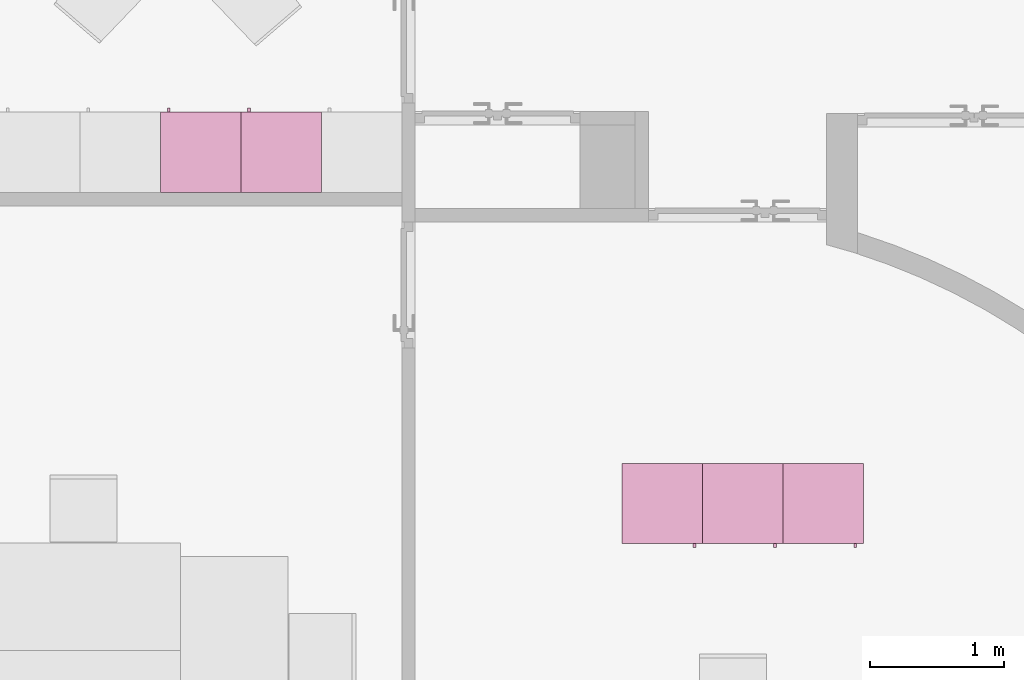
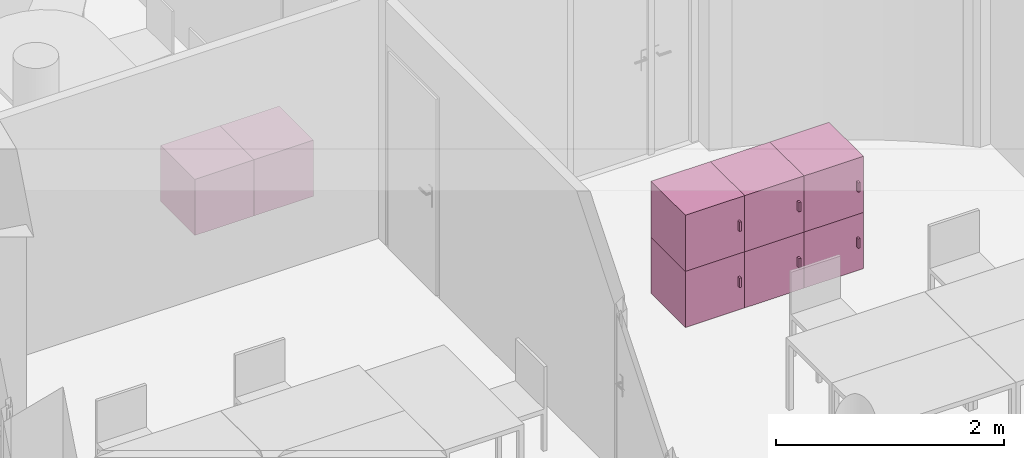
"""IFC4 building model written with IfcOpenShell, lengths in metres."""

from ifc_helpers import new_model, entity, si_unit, converted_unit, derived_unit, frame, origin, place, context, subcontext, project, spatial, faceted_brep, element, save


model = new_model("IFC4")

# Units and contexts
model_context = context("Model", 3, precision=1e-05, world=origin())
body_context = subcontext(model_context, "Body", "Model", "MODEL_VIEW")
ifc_project = project(units=[si_unit("LENGTHUNIT", "METRE"), si_unit("AREAUNIT", "SQUARE_METRE"), si_unit("VOLUMEUNIT", "CUBIC_METRE"), si_unit("MASSUNIT", "GRAM", prefix="KILO"), converted_unit("PLANEANGLEUNIT", "DEGREE", entity("IfcPlaneAngleMeasure", 0.0174532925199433), si_unit("PLANEANGLEUNIT", "RADIAN"), dimensions=[0, 0, 0, 0, 0, 0, 0]), derived_unit("THERMALTRANSMITTANCEUNIT", [(si_unit("POWERUNIT", "WATT"), 1), (si_unit("THERMODYNAMICTEMPERATUREUNIT", "KELVIN"), -1), (si_unit("LENGTHUNIT", "METRE"), -2)]), derived_unit("VOLUMETRICFLOWRATEUNIT", [(si_unit("LENGTHUNIT", "METRE"), 3), (converted_unit("TIMEUNIT", "hour", entity("IfcTimeMeasure", 3600.0), si_unit("TIMEUNIT", "SECOND"), dimensions=[0, 0, 1, 0, 0, 0, 0]), -1), (si_unit("LENGTHUNIT", "METRE"), -1)])], contexts=[model_context])

# Building, storeys
building_placement = place(None, origin())
building = spatial("IfcBuilding", under=ifc_project, at=building_placement, Name="HABITATGE PLURIFAMILIAR", CompositionType="ELEMENT")
storey_1_placement = place(building_placement, frame((0.0, 0.0, 18.29)))
storey_1 = spatial("IfcBuildingStorey", under=building, at=storey_1_placement, Name="PLANTA CINQUENA", CompositionType="ELEMENT", Elevation=18.29)
storey_2_placement = place(storey_1_placement, frame((0.0, 0.0, 15.28)))
storey_2 = spatial("IfcBuildingStorey", under=storey_1, at=storey_2_placement, Name="NOU", CompositionType="PARTIAL")

# Furniture
furniture_1_placement = place(storey_2_placement, frame((407.181391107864, 20.9895257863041, -15.2800000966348)))
element("IfcFurniture", 1, at=furniture_1_placement, inside=storey_2, Name="Armai 60x60x60_P5", context=body_context, shape_type="Brep", body=[
    faceted_brep([(0.600000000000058, 0.0300000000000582, 0.02), (0.600000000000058, 0.0300000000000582, 0.0), (0.0, 0.0300000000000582, 0.0), (0.0, 0.0300000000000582, 0.02), (0.0, 0.630000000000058, 0.0), (0.0, 0.630000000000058, 0.02), (0.600000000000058, 0.630000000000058, 0.0), (0.600000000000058, 0.630000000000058, 0.02)], [[[0, 1, 2, 3]], [[3, 2, 4, 5]], [[5, 4, 6, 7]], [[7, 6, 1, 0]], [[0, 3, 5, 7]], [[1, 6, 4, 2]]], orient=[[False], [False], [False], [False], [False], [False]]),
    faceted_brep([(0.02, 0.63, 0.58), (0.02, 0.61, 0.58), (0.02, 0.61, 0.02), (0.02, 0.63, 0.02), (0.58, 0.61, 0.02), (0.58, 0.63, 0.02), (0.58, 0.61, 0.58), (0.58, 0.63, 0.58)], [[[0, 1, 2, 3]], [[3, 2, 4, 5]], [[5, 4, 6, 7]], [[7, 6, 1, 0]], [[0, 3, 5, 7]], [[1, 6, 4, 2]]], orient=[[False], [False], [False], [False], [False], [False]]),
    faceted_brep([(0.58, 0.0300000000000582, 0.58), (0.6, 0.0300000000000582, 0.58), (0.6, 0.0300000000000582, 0.02), (0.58, 0.0300000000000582, 0.02), (0.6, 0.630000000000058, 0.02), (0.58, 0.630000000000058, 0.02), (0.6, 0.630000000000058, 0.58), (0.58, 0.630000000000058, 0.58)], [[[0, 1, 2, 3]], [[3, 2, 4, 5]], [[5, 4, 6, 7]], [[7, 6, 1, 0]], [[0, 3, 5, 7]], [[1, 6, 4, 2]]], orient=[[False], [False], [False], [False], [False], [False]]),
    faceted_brep([(0.600000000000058, 0.0500000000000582, 0.58), (0.600000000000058, 0.0300000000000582, 0.58), (0.600000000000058, 0.0300000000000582, 0.02), (0.600000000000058, 0.0500000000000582, 0.02), (0.580000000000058, 0.0300000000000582, 0.02), (0.580000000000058, 0.0500000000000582, 0.02), (0.580000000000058, 0.0300000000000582, 0.58), (0.580000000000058, 0.0500000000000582, 0.58)], [[[0, 1, 2, 3]], [[3, 2, 4, 5]], [[5, 4, 6, 7]], [[7, 6, 1, 0]], [[0, 3, 5, 7]], [[1, 6, 4, 2]]], orient=[[False], [False], [False], [False], [False], [False]]),
    faceted_brep([(0.0, 0.0300000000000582, 0.58), (0.0200000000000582, 0.0300000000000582, 0.58), (0.0200000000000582, 0.0300000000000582, 0.02), (0.0, 0.0300000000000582, 0.02), (0.0200000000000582, 0.630000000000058, 0.02), (0.0, 0.630000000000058, 0.02), (0.0200000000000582, 0.630000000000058, 0.58), (0.0, 0.630000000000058, 0.58)], [[[0, 1, 2, 3]], [[3, 2, 4, 5]], [[5, 4, 6, 7]], [[7, 6, 1, 0]], [[0, 3, 5, 7]], [[1, 6, 4, 2]]], orient=[[False], [False], [False], [False], [False], [False]]),
    faceted_brep([(0.6, 0.03, 0.6), (0.6, 0.03, 0.58), (0.0, 0.03, 0.58), (0.0, 0.03, 0.6), (0.0, 0.63, 0.58), (0.0, 0.63, 0.6), (0.6, 0.63, 0.58), (0.6, 0.63, 0.6)], [[[0, 1, 2, 3]], [[3, 2, 4, 5]], [[5, 4, 6, 7]], [[7, 6, 1, 0]], [[0, 3, 5, 7]], [[1, 6, 4, 2]]], orient=[[False], [False], [False], [False], [False], [False]]),
    faceted_brep([(0.02, 0.05, 0.58), (0.02, 0.03, 0.58), (0.02, 0.03, 0.02), (0.02, 0.05, 0.02), (0.580000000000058, 0.03, 0.02), (0.580000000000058, 0.05, 0.02), (0.580000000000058, 0.03, 0.58), (0.580000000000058, 0.05, 0.58)], [[[0, 1, 2, 3]], [[3, 2, 4, 5]], [[5, 4, 6, 7]], [[7, 6, 1, 0]], [[0, 3, 5, 7]], [[1, 6, 4, 2]]], orient=[[False], [False], [False], [False], [False], [False]]),
    faceted_brep([(0.53, 0.03, 0.358064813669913), (0.53, 0.0, 0.358064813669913), (0.53, 0.0, 0.258064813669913), (0.53, 0.03, 0.258064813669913), (0.55, 0.0, 0.258064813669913), (0.55, 0.03, 0.258064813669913), (0.55, 0.0, 0.358064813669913), (0.55, 0.03, 0.358064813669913)], [[[0, 1, 2, 3]], [[3, 2, 4, 5]], [[5, 4, 6, 7]], [[7, 6, 1, 0]], [[0, 3, 5, 7]], [[1, 6, 4, 2]]], orient=[[False], [False], [False], [False], [False], [False]]),
])
furniture_2_placement = place(storey_2_placement, frame((406.581391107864, 20.9895257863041, -15.2800000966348)))
element("IfcFurniture", 2, at=furniture_2_placement, inside=storey_2, Name="Armai 60x60x60_P5", context=body_context, shape_type="Brep", body=[
    faceted_brep([(0.600000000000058, 0.0300000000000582, 0.02), (0.600000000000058, 0.0300000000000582, 0.0), (0.0, 0.0300000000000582, 0.0), (0.0, 0.0300000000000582, 0.02), (0.0, 0.630000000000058, 0.0), (0.0, 0.630000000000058, 0.02), (0.600000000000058, 0.630000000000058, 0.0), (0.600000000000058, 0.630000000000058, 0.02)], [[[0, 1, 2, 3]], [[3, 2, 4, 5]], [[5, 4, 6, 7]], [[7, 6, 1, 0]], [[0, 3, 5, 7]], [[1, 6, 4, 2]]], orient=[[False], [False], [False], [False], [False], [False]]),
    faceted_brep([(0.02, 0.63, 0.58), (0.02, 0.61, 0.58), (0.02, 0.61, 0.02), (0.02, 0.63, 0.02), (0.58, 0.61, 0.02), (0.58, 0.63, 0.02), (0.58, 0.61, 0.58), (0.58, 0.63, 0.58)], [[[0, 1, 2, 3]], [[3, 2, 4, 5]], [[5, 4, 6, 7]], [[7, 6, 1, 0]], [[0, 3, 5, 7]], [[1, 6, 4, 2]]], orient=[[False], [False], [False], [False], [False], [False]]),
    faceted_brep([(0.58, 0.0300000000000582, 0.58), (0.6, 0.0300000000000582, 0.58), (0.6, 0.0300000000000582, 0.02), (0.58, 0.0300000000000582, 0.02), (0.6, 0.630000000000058, 0.02), (0.58, 0.630000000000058, 0.02), (0.6, 0.630000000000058, 0.58), (0.58, 0.630000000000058, 0.58)], [[[0, 1, 2, 3]], [[3, 2, 4, 5]], [[5, 4, 6, 7]], [[7, 6, 1, 0]], [[0, 3, 5, 7]], [[1, 6, 4, 2]]], orient=[[False], [False], [False], [False], [False], [False]]),
    faceted_brep([(0.600000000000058, 0.0500000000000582, 0.58), (0.600000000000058, 0.0300000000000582, 0.58), (0.600000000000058, 0.0300000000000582, 0.02), (0.600000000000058, 0.0500000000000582, 0.02), (0.580000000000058, 0.0300000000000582, 0.02), (0.580000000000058, 0.0500000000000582, 0.02), (0.580000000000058, 0.0300000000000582, 0.58), (0.580000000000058, 0.0500000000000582, 0.58)], [[[0, 1, 2, 3]], [[3, 2, 4, 5]], [[5, 4, 6, 7]], [[7, 6, 1, 0]], [[0, 3, 5, 7]], [[1, 6, 4, 2]]], orient=[[False], [False], [False], [False], [False], [False]]),
    faceted_brep([(0.0, 0.0300000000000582, 0.58), (0.0200000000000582, 0.0300000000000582, 0.58), (0.0200000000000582, 0.0300000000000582, 0.02), (0.0, 0.0300000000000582, 0.02), (0.0200000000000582, 0.630000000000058, 0.02), (0.0, 0.630000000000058, 0.02), (0.0200000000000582, 0.630000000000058, 0.58), (0.0, 0.630000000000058, 0.58)], [[[0, 1, 2, 3]], [[3, 2, 4, 5]], [[5, 4, 6, 7]], [[7, 6, 1, 0]], [[0, 3, 5, 7]], [[1, 6, 4, 2]]], orient=[[False], [False], [False], [False], [False], [False]]),
    faceted_brep([(0.6, 0.03, 0.6), (0.6, 0.03, 0.58), (0.0, 0.03, 0.58), (0.0, 0.03, 0.6), (0.0, 0.63, 0.58), (0.0, 0.63, 0.6), (0.6, 0.63, 0.58), (0.6, 0.63, 0.6)], [[[0, 1, 2, 3]], [[3, 2, 4, 5]], [[5, 4, 6, 7]], [[7, 6, 1, 0]], [[0, 3, 5, 7]], [[1, 6, 4, 2]]], orient=[[False], [False], [False], [False], [False], [False]]),
    faceted_brep([(0.02, 0.05, 0.58), (0.02, 0.03, 0.58), (0.02, 0.03, 0.02), (0.02, 0.05, 0.02), (0.580000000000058, 0.03, 0.02), (0.580000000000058, 0.05, 0.02), (0.580000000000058, 0.03, 0.58), (0.580000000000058, 0.05, 0.58)], [[[0, 1, 2, 3]], [[3, 2, 4, 5]], [[5, 4, 6, 7]], [[7, 6, 1, 0]], [[0, 3, 5, 7]], [[1, 6, 4, 2]]], orient=[[False], [False], [False], [False], [False], [False]]),
    faceted_brep([(0.53, 0.03, 0.358064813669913), (0.53, 0.0, 0.358064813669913), (0.53, 0.0, 0.258064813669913), (0.53, 0.03, 0.258064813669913), (0.55, 0.0, 0.258064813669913), (0.55, 0.03, 0.258064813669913), (0.55, 0.0, 0.358064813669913), (0.55, 0.03, 0.358064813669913)], [[[0, 1, 2, 3]], [[3, 2, 4, 5]], [[5, 4, 6, 7]], [[7, 6, 1, 0]], [[0, 3, 5, 7]], [[1, 6, 4, 2]]], orient=[[False], [False], [False], [False], [False], [False]]),
])
furniture_3_placement = place(storey_2_placement, frame((405.981391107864, 20.9895257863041, -15.2800000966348)))
element("IfcFurniture", 3, at=furniture_3_placement, inside=storey_2, Name="Armai 60x60x60_P5", context=body_context, shape_type="Brep", body=[
    faceted_brep([(0.600000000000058, 0.0300000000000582, 0.02), (0.600000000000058, 0.0300000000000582, 0.0), (0.0, 0.0300000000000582, 0.0), (0.0, 0.0300000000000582, 0.02), (0.0, 0.630000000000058, 0.0), (0.0, 0.630000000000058, 0.02), (0.600000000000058, 0.630000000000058, 0.0), (0.600000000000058, 0.630000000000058, 0.02)], [[[0, 1, 2, 3]], [[3, 2, 4, 5]], [[5, 4, 6, 7]], [[7, 6, 1, 0]], [[0, 3, 5, 7]], [[1, 6, 4, 2]]], orient=[[False], [False], [False], [False], [False], [False]]),
    faceted_brep([(0.02, 0.63, 0.58), (0.02, 0.61, 0.58), (0.02, 0.61, 0.02), (0.02, 0.63, 0.02), (0.58, 0.61, 0.02), (0.58, 0.63, 0.02), (0.58, 0.61, 0.58), (0.58, 0.63, 0.58)], [[[0, 1, 2, 3]], [[3, 2, 4, 5]], [[5, 4, 6, 7]], [[7, 6, 1, 0]], [[0, 3, 5, 7]], [[1, 6, 4, 2]]], orient=[[False], [False], [False], [False], [False], [False]]),
    faceted_brep([(0.58, 0.0300000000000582, 0.58), (0.6, 0.0300000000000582, 0.58), (0.6, 0.0300000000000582, 0.02), (0.58, 0.0300000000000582, 0.02), (0.6, 0.630000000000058, 0.02), (0.58, 0.630000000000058, 0.02), (0.6, 0.630000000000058, 0.58), (0.58, 0.630000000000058, 0.58)], [[[0, 1, 2, 3]], [[3, 2, 4, 5]], [[5, 4, 6, 7]], [[7, 6, 1, 0]], [[0, 3, 5, 7]], [[1, 6, 4, 2]]], orient=[[False], [False], [False], [False], [False], [False]]),
    faceted_brep([(0.600000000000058, 0.0500000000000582, 0.58), (0.600000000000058, 0.0300000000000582, 0.58), (0.600000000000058, 0.0300000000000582, 0.02), (0.600000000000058, 0.0500000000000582, 0.02), (0.580000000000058, 0.0300000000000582, 0.02), (0.580000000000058, 0.0500000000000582, 0.02), (0.580000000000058, 0.0300000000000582, 0.58), (0.580000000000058, 0.0500000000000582, 0.58)], [[[0, 1, 2, 3]], [[3, 2, 4, 5]], [[5, 4, 6, 7]], [[7, 6, 1, 0]], [[0, 3, 5, 7]], [[1, 6, 4, 2]]], orient=[[False], [False], [False], [False], [False], [False]]),
    faceted_brep([(0.0, 0.0300000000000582, 0.58), (0.0200000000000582, 0.0300000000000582, 0.58), (0.0200000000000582, 0.0300000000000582, 0.02), (0.0, 0.0300000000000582, 0.02), (0.0200000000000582, 0.630000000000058, 0.02), (0.0, 0.630000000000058, 0.02), (0.0200000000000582, 0.630000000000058, 0.58), (0.0, 0.630000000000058, 0.58)], [[[0, 1, 2, 3]], [[3, 2, 4, 5]], [[5, 4, 6, 7]], [[7, 6, 1, 0]], [[0, 3, 5, 7]], [[1, 6, 4, 2]]], orient=[[False], [False], [False], [False], [False], [False]]),
    faceted_brep([(0.6, 0.03, 0.6), (0.6, 0.03, 0.58), (0.0, 0.03, 0.58), (0.0, 0.03, 0.6), (0.0, 0.63, 0.58), (0.0, 0.63, 0.6), (0.6, 0.63, 0.58), (0.6, 0.63, 0.6)], [[[0, 1, 2, 3]], [[3, 2, 4, 5]], [[5, 4, 6, 7]], [[7, 6, 1, 0]], [[0, 3, 5, 7]], [[1, 6, 4, 2]]], orient=[[False], [False], [False], [False], [False], [False]]),
    faceted_brep([(0.02, 0.05, 0.58), (0.02, 0.03, 0.58), (0.02, 0.03, 0.02), (0.02, 0.05, 0.02), (0.580000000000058, 0.03, 0.02), (0.580000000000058, 0.05, 0.02), (0.580000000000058, 0.03, 0.58), (0.580000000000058, 0.05, 0.58)], [[[0, 1, 2, 3]], [[3, 2, 4, 5]], [[5, 4, 6, 7]], [[7, 6, 1, 0]], [[0, 3, 5, 7]], [[1, 6, 4, 2]]], orient=[[False], [False], [False], [False], [False], [False]]),
    faceted_brep([(0.53, 0.03, 0.358064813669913), (0.53, 0.0, 0.358064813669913), (0.53, 0.0, 0.258064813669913), (0.53, 0.03, 0.258064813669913), (0.55, 0.0, 0.258064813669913), (0.55, 0.03, 0.258064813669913), (0.55, 0.0, 0.358064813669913), (0.55, 0.03, 0.358064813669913)], [[[0, 1, 2, 3]], [[3, 2, 4, 5]], [[5, 4, 6, 7]], [[7, 6, 1, 0]], [[0, 3, 5, 7]], [[1, 6, 4, 2]]], orient=[[False], [False], [False], [False], [False], [False]]),
])
furniture_4_placement = place(storey_2_placement, frame((407.181391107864, 20.9895257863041, -14.6800000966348)))
element("IfcFurniture", 4, at=furniture_4_placement, inside=storey_2, Name="Armai 60x60x60_P5", context=body_context, shape_type="Brep", body=[
    faceted_brep([(0.600000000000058, 0.0300000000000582, 0.02), (0.600000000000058, 0.0300000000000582, 0.0), (0.0, 0.0300000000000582, 0.0), (0.0, 0.0300000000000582, 0.02), (0.0, 0.630000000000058, 0.0), (0.0, 0.630000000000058, 0.02), (0.600000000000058, 0.630000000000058, 0.0), (0.600000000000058, 0.630000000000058, 0.02)], [[[0, 1, 2, 3]], [[3, 2, 4, 5]], [[5, 4, 6, 7]], [[7, 6, 1, 0]], [[0, 3, 5, 7]], [[1, 6, 4, 2]]], orient=[[False], [False], [False], [False], [False], [False]]),
    faceted_brep([(0.02, 0.63, 0.58), (0.02, 0.61, 0.58), (0.02, 0.61, 0.02), (0.02, 0.63, 0.02), (0.58, 0.61, 0.02), (0.58, 0.63, 0.02), (0.58, 0.61, 0.58), (0.58, 0.63, 0.58)], [[[0, 1, 2, 3]], [[3, 2, 4, 5]], [[5, 4, 6, 7]], [[7, 6, 1, 0]], [[0, 3, 5, 7]], [[1, 6, 4, 2]]], orient=[[False], [False], [False], [False], [False], [False]]),
    faceted_brep([(0.58, 0.0300000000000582, 0.58), (0.6, 0.0300000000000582, 0.58), (0.6, 0.0300000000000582, 0.02), (0.58, 0.0300000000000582, 0.02), (0.6, 0.630000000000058, 0.02), (0.58, 0.630000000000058, 0.02), (0.6, 0.630000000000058, 0.58), (0.58, 0.630000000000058, 0.58)], [[[0, 1, 2, 3]], [[3, 2, 4, 5]], [[5, 4, 6, 7]], [[7, 6, 1, 0]], [[0, 3, 5, 7]], [[1, 6, 4, 2]]], orient=[[False], [False], [False], [False], [False], [False]]),
    faceted_brep([(0.600000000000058, 0.0500000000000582, 0.58), (0.600000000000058, 0.0300000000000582, 0.58), (0.600000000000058, 0.0300000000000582, 0.02), (0.600000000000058, 0.0500000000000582, 0.02), (0.580000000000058, 0.0300000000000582, 0.02), (0.580000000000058, 0.0500000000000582, 0.02), (0.580000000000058, 0.0300000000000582, 0.58), (0.580000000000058, 0.0500000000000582, 0.58)], [[[0, 1, 2, 3]], [[3, 2, 4, 5]], [[5, 4, 6, 7]], [[7, 6, 1, 0]], [[0, 3, 5, 7]], [[1, 6, 4, 2]]], orient=[[False], [False], [False], [False], [False], [False]]),
    faceted_brep([(0.0, 0.0300000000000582, 0.58), (0.0200000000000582, 0.0300000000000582, 0.58), (0.0200000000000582, 0.0300000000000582, 0.02), (0.0, 0.0300000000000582, 0.02), (0.0200000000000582, 0.630000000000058, 0.02), (0.0, 0.630000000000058, 0.02), (0.0200000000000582, 0.630000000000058, 0.58), (0.0, 0.630000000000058, 0.58)], [[[0, 1, 2, 3]], [[3, 2, 4, 5]], [[5, 4, 6, 7]], [[7, 6, 1, 0]], [[0, 3, 5, 7]], [[1, 6, 4, 2]]], orient=[[False], [False], [False], [False], [False], [False]]),
    faceted_brep([(0.6, 0.03, 0.6), (0.6, 0.03, 0.58), (0.0, 0.03, 0.58), (0.0, 0.03, 0.6), (0.0, 0.63, 0.58), (0.0, 0.63, 0.6), (0.6, 0.63, 0.58), (0.6, 0.63, 0.6)], [[[0, 1, 2, 3]], [[3, 2, 4, 5]], [[5, 4, 6, 7]], [[7, 6, 1, 0]], [[0, 3, 5, 7]], [[1, 6, 4, 2]]], orient=[[False], [False], [False], [False], [False], [False]]),
    faceted_brep([(0.02, 0.05, 0.58), (0.02, 0.03, 0.58), (0.02, 0.03, 0.02), (0.02, 0.05, 0.02), (0.580000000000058, 0.03, 0.02), (0.580000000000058, 0.05, 0.02), (0.580000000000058, 0.03, 0.58), (0.580000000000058, 0.05, 0.58)], [[[0, 1, 2, 3]], [[3, 2, 4, 5]], [[5, 4, 6, 7]], [[7, 6, 1, 0]], [[0, 3, 5, 7]], [[1, 6, 4, 2]]], orient=[[False], [False], [False], [False], [False], [False]]),
    faceted_brep([(0.53, 0.03, 0.358064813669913), (0.53, 0.0, 0.358064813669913), (0.53, 0.0, 0.258064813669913), (0.53, 0.03, 0.258064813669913), (0.55, 0.0, 0.258064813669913), (0.55, 0.03, 0.258064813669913), (0.55, 0.0, 0.358064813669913), (0.55, 0.03, 0.358064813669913)], [[[0, 1, 2, 3]], [[3, 2, 4, 5]], [[5, 4, 6, 7]], [[7, 6, 1, 0]], [[0, 3, 5, 7]], [[1, 6, 4, 2]]], orient=[[False], [False], [False], [False], [False], [False]]),
])
furniture_5_placement = place(storey_2_placement, frame((406.581391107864, 20.9895257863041, -14.6800000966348)))
element("IfcFurniture", 5, at=furniture_5_placement, inside=storey_2, Name="Armai 60x60x60_P5", context=body_context, shape_type="Brep", body=[
    faceted_brep([(0.600000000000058, 0.0300000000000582, 0.02), (0.600000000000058, 0.0300000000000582, 0.0), (0.0, 0.0300000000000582, 0.0), (0.0, 0.0300000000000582, 0.02), (0.0, 0.630000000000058, 0.0), (0.0, 0.630000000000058, 0.02), (0.600000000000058, 0.630000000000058, 0.0), (0.600000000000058, 0.630000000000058, 0.02)], [[[0, 1, 2, 3]], [[3, 2, 4, 5]], [[5, 4, 6, 7]], [[7, 6, 1, 0]], [[0, 3, 5, 7]], [[1, 6, 4, 2]]], orient=[[False], [False], [False], [False], [False], [False]]),
    faceted_brep([(0.02, 0.63, 0.58), (0.02, 0.61, 0.58), (0.02, 0.61, 0.02), (0.02, 0.63, 0.02), (0.58, 0.61, 0.02), (0.58, 0.63, 0.02), (0.58, 0.61, 0.58), (0.58, 0.63, 0.58)], [[[0, 1, 2, 3]], [[3, 2, 4, 5]], [[5, 4, 6, 7]], [[7, 6, 1, 0]], [[0, 3, 5, 7]], [[1, 6, 4, 2]]], orient=[[False], [False], [False], [False], [False], [False]]),
    faceted_brep([(0.58, 0.0300000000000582, 0.58), (0.6, 0.0300000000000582, 0.58), (0.6, 0.0300000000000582, 0.02), (0.58, 0.0300000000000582, 0.02), (0.6, 0.630000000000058, 0.02), (0.58, 0.630000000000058, 0.02), (0.6, 0.630000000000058, 0.58), (0.58, 0.630000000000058, 0.58)], [[[0, 1, 2, 3]], [[3, 2, 4, 5]], [[5, 4, 6, 7]], [[7, 6, 1, 0]], [[0, 3, 5, 7]], [[1, 6, 4, 2]]], orient=[[False], [False], [False], [False], [False], [False]]),
    faceted_brep([(0.600000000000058, 0.0500000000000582, 0.58), (0.600000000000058, 0.0300000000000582, 0.58), (0.600000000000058, 0.0300000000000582, 0.02), (0.600000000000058, 0.0500000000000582, 0.02), (0.580000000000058, 0.0300000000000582, 0.02), (0.580000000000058, 0.0500000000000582, 0.02), (0.580000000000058, 0.0300000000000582, 0.58), (0.580000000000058, 0.0500000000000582, 0.58)], [[[0, 1, 2, 3]], [[3, 2, 4, 5]], [[5, 4, 6, 7]], [[7, 6, 1, 0]], [[0, 3, 5, 7]], [[1, 6, 4, 2]]], orient=[[False], [False], [False], [False], [False], [False]]),
    faceted_brep([(0.0, 0.0300000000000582, 0.58), (0.0200000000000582, 0.0300000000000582, 0.58), (0.0200000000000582, 0.0300000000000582, 0.02), (0.0, 0.0300000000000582, 0.02), (0.0200000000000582, 0.630000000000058, 0.02), (0.0, 0.630000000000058, 0.02), (0.0200000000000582, 0.630000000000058, 0.58), (0.0, 0.630000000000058, 0.58)], [[[0, 1, 2, 3]], [[3, 2, 4, 5]], [[5, 4, 6, 7]], [[7, 6, 1, 0]], [[0, 3, 5, 7]], [[1, 6, 4, 2]]], orient=[[False], [False], [False], [False], [False], [False]]),
    faceted_brep([(0.6, 0.03, 0.6), (0.6, 0.03, 0.58), (0.0, 0.03, 0.58), (0.0, 0.03, 0.6), (0.0, 0.63, 0.58), (0.0, 0.63, 0.6), (0.6, 0.63, 0.58), (0.6, 0.63, 0.6)], [[[0, 1, 2, 3]], [[3, 2, 4, 5]], [[5, 4, 6, 7]], [[7, 6, 1, 0]], [[0, 3, 5, 7]], [[1, 6, 4, 2]]], orient=[[False], [False], [False], [False], [False], [False]]),
    faceted_brep([(0.02, 0.05, 0.58), (0.02, 0.03, 0.58), (0.02, 0.03, 0.02), (0.02, 0.05, 0.02), (0.580000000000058, 0.03, 0.02), (0.580000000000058, 0.05, 0.02), (0.580000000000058, 0.03, 0.58), (0.580000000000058, 0.05, 0.58)], [[[0, 1, 2, 3]], [[3, 2, 4, 5]], [[5, 4, 6, 7]], [[7, 6, 1, 0]], [[0, 3, 5, 7]], [[1, 6, 4, 2]]], orient=[[False], [False], [False], [False], [False], [False]]),
    faceted_brep([(0.53, 0.03, 0.358064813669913), (0.53, 0.0, 0.358064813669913), (0.53, 0.0, 0.258064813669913), (0.53, 0.03, 0.258064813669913), (0.55, 0.0, 0.258064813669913), (0.55, 0.03, 0.258064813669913), (0.55, 0.0, 0.358064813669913), (0.55, 0.03, 0.358064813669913)], [[[0, 1, 2, 3]], [[3, 2, 4, 5]], [[5, 4, 6, 7]], [[7, 6, 1, 0]], [[0, 3, 5, 7]], [[1, 6, 4, 2]]], orient=[[False], [False], [False], [False], [False], [False]]),
])
furniture_6_placement = place(storey_2_placement, frame((405.981391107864, 20.9895257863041, -14.6800000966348)))
element("IfcFurniture", 6, at=furniture_6_placement, inside=storey_2, Name="Armai 60x60x60_P5", context=body_context, shape_type="Brep", body=[
    faceted_brep([(0.600000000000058, 0.0300000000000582, 0.02), (0.600000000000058, 0.0300000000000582, 0.0), (0.0, 0.0300000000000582, 0.0), (0.0, 0.0300000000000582, 0.02), (0.0, 0.630000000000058, 0.0), (0.0, 0.630000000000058, 0.02), (0.600000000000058, 0.630000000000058, 0.0), (0.600000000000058, 0.630000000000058, 0.02)], [[[0, 1, 2, 3]], [[3, 2, 4, 5]], [[5, 4, 6, 7]], [[7, 6, 1, 0]], [[0, 3, 5, 7]], [[1, 6, 4, 2]]], orient=[[False], [False], [False], [False], [False], [False]]),
    faceted_brep([(0.02, 0.63, 0.58), (0.02, 0.61, 0.58), (0.02, 0.61, 0.02), (0.02, 0.63, 0.02), (0.58, 0.61, 0.02), (0.58, 0.63, 0.02), (0.58, 0.61, 0.58), (0.58, 0.63, 0.58)], [[[0, 1, 2, 3]], [[3, 2, 4, 5]], [[5, 4, 6, 7]], [[7, 6, 1, 0]], [[0, 3, 5, 7]], [[1, 6, 4, 2]]], orient=[[False], [False], [False], [False], [False], [False]]),
    faceted_brep([(0.58, 0.0300000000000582, 0.58), (0.6, 0.0300000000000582, 0.58), (0.6, 0.0300000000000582, 0.02), (0.58, 0.0300000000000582, 0.02), (0.6, 0.630000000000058, 0.02), (0.58, 0.630000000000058, 0.02), (0.6, 0.630000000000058, 0.58), (0.58, 0.630000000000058, 0.58)], [[[0, 1, 2, 3]], [[3, 2, 4, 5]], [[5, 4, 6, 7]], [[7, 6, 1, 0]], [[0, 3, 5, 7]], [[1, 6, 4, 2]]], orient=[[False], [False], [False], [False], [False], [False]]),
    faceted_brep([(0.600000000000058, 0.0500000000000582, 0.58), (0.600000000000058, 0.0300000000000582, 0.58), (0.600000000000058, 0.0300000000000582, 0.02), (0.600000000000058, 0.0500000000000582, 0.02), (0.580000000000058, 0.0300000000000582, 0.02), (0.580000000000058, 0.0500000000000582, 0.02), (0.580000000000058, 0.0300000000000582, 0.58), (0.580000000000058, 0.0500000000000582, 0.58)], [[[0, 1, 2, 3]], [[3, 2, 4, 5]], [[5, 4, 6, 7]], [[7, 6, 1, 0]], [[0, 3, 5, 7]], [[1, 6, 4, 2]]], orient=[[False], [False], [False], [False], [False], [False]]),
    faceted_brep([(0.0, 0.0300000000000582, 0.58), (0.0200000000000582, 0.0300000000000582, 0.58), (0.0200000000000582, 0.0300000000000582, 0.02), (0.0, 0.0300000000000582, 0.02), (0.0200000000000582, 0.630000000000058, 0.02), (0.0, 0.630000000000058, 0.02), (0.0200000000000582, 0.630000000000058, 0.58), (0.0, 0.630000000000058, 0.58)], [[[0, 1, 2, 3]], [[3, 2, 4, 5]], [[5, 4, 6, 7]], [[7, 6, 1, 0]], [[0, 3, 5, 7]], [[1, 6, 4, 2]]], orient=[[False], [False], [False], [False], [False], [False]]),
    faceted_brep([(0.6, 0.03, 0.6), (0.6, 0.03, 0.58), (0.0, 0.03, 0.58), (0.0, 0.03, 0.6), (0.0, 0.63, 0.58), (0.0, 0.63, 0.6), (0.6, 0.63, 0.58), (0.6, 0.63, 0.6)], [[[0, 1, 2, 3]], [[3, 2, 4, 5]], [[5, 4, 6, 7]], [[7, 6, 1, 0]], [[0, 3, 5, 7]], [[1, 6, 4, 2]]], orient=[[False], [False], [False], [False], [False], [False]]),
    faceted_brep([(0.02, 0.05, 0.58), (0.02, 0.03, 0.58), (0.02, 0.03, 0.02), (0.02, 0.05, 0.02), (0.580000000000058, 0.03, 0.02), (0.580000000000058, 0.05, 0.02), (0.580000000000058, 0.03, 0.58), (0.580000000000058, 0.05, 0.58)], [[[0, 1, 2, 3]], [[3, 2, 4, 5]], [[5, 4, 6, 7]], [[7, 6, 1, 0]], [[0, 3, 5, 7]], [[1, 6, 4, 2]]], orient=[[False], [False], [False], [False], [False], [False]]),
    faceted_brep([(0.53, 0.03, 0.358064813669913), (0.53, 0.0, 0.358064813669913), (0.53, 0.0, 0.258064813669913), (0.53, 0.03, 0.258064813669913), (0.55, 0.0, 0.258064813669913), (0.55, 0.03, 0.258064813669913), (0.55, 0.0, 0.358064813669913), (0.55, 0.03, 0.358064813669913)], [[[0, 1, 2, 3]], [[3, 2, 4, 5]], [[5, 4, 6, 7]], [[7, 6, 1, 0]], [[0, 3, 5, 7]], [[1, 6, 4, 2]]], orient=[[False], [False], [False], [False], [False], [False]]),
])
furniture_7_placement = place(storey_2_placement, frame((402.536984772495, 23.6406730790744, -14.6800000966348)))
element("IfcFurniture", 7, at=furniture_7_placement, inside=storey_2, Name="Armai 60x60x60_P5", context=body_context, shape_type="Brep", body=[
    faceted_brep([(0.0, 0.6, 0.02), (0.0, 0.6, 0.0), (0.6, 0.6, 0.0), (0.6, 0.6, 0.02), (0.6, 0.0, 0.0), (0.6, 0.0, 0.02), (0.0, 0.0, 0.0), (0.0, 0.0, 0.02)], [[[0, 1, 2, 3]], [[3, 2, 4, 5]], [[5, 4, 6, 7]], [[7, 6, 1, 0]], [[0, 3, 5, 7]], [[1, 6, 4, 2]]], orient=[[False], [False], [False], [False], [False], [False]]),
    faceted_brep([(0.580000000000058, 0.0, 0.58), (0.580000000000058, 0.0200000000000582, 0.58), (0.580000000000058, 0.0200000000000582, 0.02), (0.580000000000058, 0.0, 0.02), (0.0200000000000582, 0.0200000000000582, 0.02), (0.0200000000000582, 0.0, 0.02), (0.0200000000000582, 0.0200000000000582, 0.58), (0.0200000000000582, 0.0, 0.58)], [[[0, 1, 2, 3]], [[3, 2, 4, 5]], [[5, 4, 6, 7]], [[7, 6, 1, 0]], [[0, 3, 5, 7]], [[1, 6, 4, 2]]], orient=[[False], [False], [False], [False], [False], [False]]),
    faceted_brep([(0.0200000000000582, 0.6, 0.58), (0.0, 0.6, 0.58), (0.0, 0.6, 0.02), (0.0200000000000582, 0.6, 0.02), (0.0, 0.0, 0.02), (0.0200000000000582, 0.0, 0.02), (0.0, 0.0, 0.58), (0.0200000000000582, 0.0, 0.58)], [[[0, 1, 2, 3]], [[3, 2, 4, 5]], [[5, 4, 6, 7]], [[7, 6, 1, 0]], [[0, 3, 5, 7]], [[1, 6, 4, 2]]], orient=[[False], [False], [False], [False], [False], [False]]),
    faceted_brep([(0.0, 0.58, 0.58), (0.0, 0.6, 0.58), (0.0, 0.6, 0.02), (0.0, 0.58, 0.02), (0.02, 0.6, 0.02), (0.02, 0.58, 0.02), (0.02, 0.6, 0.58), (0.02, 0.58, 0.58)], [[[0, 1, 2, 3]], [[3, 2, 4, 5]], [[5, 4, 6, 7]], [[7, 6, 1, 0]], [[0, 3, 5, 7]], [[1, 6, 4, 2]]], orient=[[False], [False], [False], [False], [False], [False]]),
    faceted_brep([(0.6, 0.6, 0.58), (0.58, 0.6, 0.58), (0.58, 0.6, 0.02), (0.6, 0.6, 0.02), (0.58, 0.0, 0.02), (0.6, 0.0, 0.02), (0.58, 0.0, 0.58), (0.6, 0.0, 0.58)], [[[0, 1, 2, 3]], [[3, 2, 4, 5]], [[5, 4, 6, 7]], [[7, 6, 1, 0]], [[0, 3, 5, 7]], [[1, 6, 4, 2]]], orient=[[False], [False], [False], [False], [False], [False]]),
    faceted_brep([(0.0, 0.600000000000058, 0.6), (0.0, 0.600000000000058, 0.58), (0.600000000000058, 0.600000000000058, 0.58), (0.600000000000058, 0.600000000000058, 0.6), (0.600000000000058, 0.0, 0.58), (0.600000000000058, 0.0, 0.6), (0.0, 0.0, 0.58), (0.0, 0.0, 0.6)], [[[0, 1, 2, 3]], [[3, 2, 4, 5]], [[5, 4, 6, 7]], [[7, 6, 1, 0]], [[0, 3, 5, 7]], [[1, 6, 4, 2]]], orient=[[False], [False], [False], [False], [False], [False]]),
    faceted_brep([(0.580000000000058, 0.580000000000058, 0.58), (0.580000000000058, 0.600000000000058, 0.58), (0.580000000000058, 0.600000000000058, 0.02), (0.580000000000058, 0.580000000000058, 0.02), (0.02, 0.600000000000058, 0.02), (0.02, 0.580000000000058, 0.02), (0.02, 0.600000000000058, 0.58), (0.02, 0.580000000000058, 0.58)], [[[0, 1, 2, 3]], [[3, 2, 4, 5]], [[5, 4, 6, 7]], [[7, 6, 1, 0]], [[0, 3, 5, 7]], [[1, 6, 4, 2]]], orient=[[False], [False], [False], [False], [False], [False]]),
    faceted_brep([(0.0700000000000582, 0.600000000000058, 0.358064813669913), (0.0700000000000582, 0.630000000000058, 0.358064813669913), (0.0700000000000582, 0.630000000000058, 0.258064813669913), (0.0700000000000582, 0.600000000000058, 0.258064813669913), (0.0500000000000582, 0.630000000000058, 0.258064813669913), (0.0500000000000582, 0.600000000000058, 0.258064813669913), (0.0500000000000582, 0.630000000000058, 0.358064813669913), (0.0500000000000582, 0.600000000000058, 0.358064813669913)], [[[0, 1, 2, 3]], [[3, 2, 4, 5]], [[5, 4, 6, 7]], [[7, 6, 1, 0]], [[0, 3, 5, 7]], [[1, 6, 4, 2]]], orient=[[False], [False], [False], [False], [False], [False]]),
])
furniture_8_placement = place(storey_2_placement, frame((403.136984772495, 23.6406730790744, -14.6800000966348)))
element("IfcFurniture", 8, at=furniture_8_placement, inside=storey_2, Name="Armai 60x60x60_P5", context=body_context, shape_type="Brep", body=[
    faceted_brep([(0.0, 0.6, 0.02), (0.0, 0.6, 0.0), (0.6, 0.6, 0.0), (0.6, 0.6, 0.02), (0.6, 0.0, 0.0), (0.6, 0.0, 0.02), (0.0, 0.0, 0.0), (0.0, 0.0, 0.02)], [[[0, 1, 2, 3]], [[3, 2, 4, 5]], [[5, 4, 6, 7]], [[7, 6, 1, 0]], [[0, 3, 5, 7]], [[1, 6, 4, 2]]], orient=[[False], [False], [False], [False], [False], [False]]),
    faceted_brep([(0.580000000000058, 0.0, 0.58), (0.580000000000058, 0.0200000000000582, 0.58), (0.580000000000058, 0.0200000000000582, 0.02), (0.580000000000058, 0.0, 0.02), (0.0200000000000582, 0.0200000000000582, 0.02), (0.0200000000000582, 0.0, 0.02), (0.0200000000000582, 0.0200000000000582, 0.58), (0.0200000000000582, 0.0, 0.58)], [[[0, 1, 2, 3]], [[3, 2, 4, 5]], [[5, 4, 6, 7]], [[7, 6, 1, 0]], [[0, 3, 5, 7]], [[1, 6, 4, 2]]], orient=[[False], [False], [False], [False], [False], [False]]),
    faceted_brep([(0.0200000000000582, 0.6, 0.58), (0.0, 0.6, 0.58), (0.0, 0.6, 0.02), (0.0200000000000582, 0.6, 0.02), (0.0, 0.0, 0.02), (0.0200000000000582, 0.0, 0.02), (0.0, 0.0, 0.58), (0.0200000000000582, 0.0, 0.58)], [[[0, 1, 2, 3]], [[3, 2, 4, 5]], [[5, 4, 6, 7]], [[7, 6, 1, 0]], [[0, 3, 5, 7]], [[1, 6, 4, 2]]], orient=[[False], [False], [False], [False], [False], [False]]),
    faceted_brep([(0.0, 0.58, 0.58), (0.0, 0.6, 0.58), (0.0, 0.6, 0.02), (0.0, 0.58, 0.02), (0.02, 0.6, 0.02), (0.02, 0.58, 0.02), (0.02, 0.6, 0.58), (0.02, 0.58, 0.58)], [[[0, 1, 2, 3]], [[3, 2, 4, 5]], [[5, 4, 6, 7]], [[7, 6, 1, 0]], [[0, 3, 5, 7]], [[1, 6, 4, 2]]], orient=[[False], [False], [False], [False], [False], [False]]),
    faceted_brep([(0.6, 0.6, 0.58), (0.58, 0.6, 0.58), (0.58, 0.6, 0.02), (0.6, 0.6, 0.02), (0.58, 0.0, 0.02), (0.6, 0.0, 0.02), (0.58, 0.0, 0.58), (0.6, 0.0, 0.58)], [[[0, 1, 2, 3]], [[3, 2, 4, 5]], [[5, 4, 6, 7]], [[7, 6, 1, 0]], [[0, 3, 5, 7]], [[1, 6, 4, 2]]], orient=[[False], [False], [False], [False], [False], [False]]),
    faceted_brep([(0.0, 0.600000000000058, 0.6), (0.0, 0.600000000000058, 0.58), (0.600000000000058, 0.600000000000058, 0.58), (0.600000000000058, 0.600000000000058, 0.6), (0.600000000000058, 0.0, 0.58), (0.600000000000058, 0.0, 0.6), (0.0, 0.0, 0.58), (0.0, 0.0, 0.6)], [[[0, 1, 2, 3]], [[3, 2, 4, 5]], [[5, 4, 6, 7]], [[7, 6, 1, 0]], [[0, 3, 5, 7]], [[1, 6, 4, 2]]], orient=[[False], [False], [False], [False], [False], [False]]),
    faceted_brep([(0.580000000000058, 0.580000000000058, 0.58), (0.580000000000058, 0.600000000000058, 0.58), (0.580000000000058, 0.600000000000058, 0.02), (0.580000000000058, 0.580000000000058, 0.02), (0.02, 0.600000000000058, 0.02), (0.02, 0.580000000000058, 0.02), (0.02, 0.600000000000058, 0.58), (0.02, 0.580000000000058, 0.58)], [[[0, 1, 2, 3]], [[3, 2, 4, 5]], [[5, 4, 6, 7]], [[7, 6, 1, 0]], [[0, 3, 5, 7]], [[1, 6, 4, 2]]], orient=[[False], [False], [False], [False], [False], [False]]),
    faceted_brep([(0.0700000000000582, 0.600000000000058, 0.358064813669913), (0.0700000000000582, 0.630000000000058, 0.358064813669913), (0.0700000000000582, 0.630000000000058, 0.258064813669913), (0.0700000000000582, 0.600000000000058, 0.258064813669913), (0.0500000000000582, 0.630000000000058, 0.258064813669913), (0.0500000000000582, 0.600000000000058, 0.258064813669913), (0.0500000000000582, 0.630000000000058, 0.358064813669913), (0.0500000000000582, 0.600000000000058, 0.358064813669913)], [[[0, 1, 2, 3]], [[3, 2, 4, 5]], [[5, 4, 6, 7]], [[7, 6, 1, 0]], [[0, 3, 5, 7]], [[1, 6, 4, 2]]], orient=[[False], [False], [False], [False], [False], [False]]),
])

save(model, "model.ifc")
